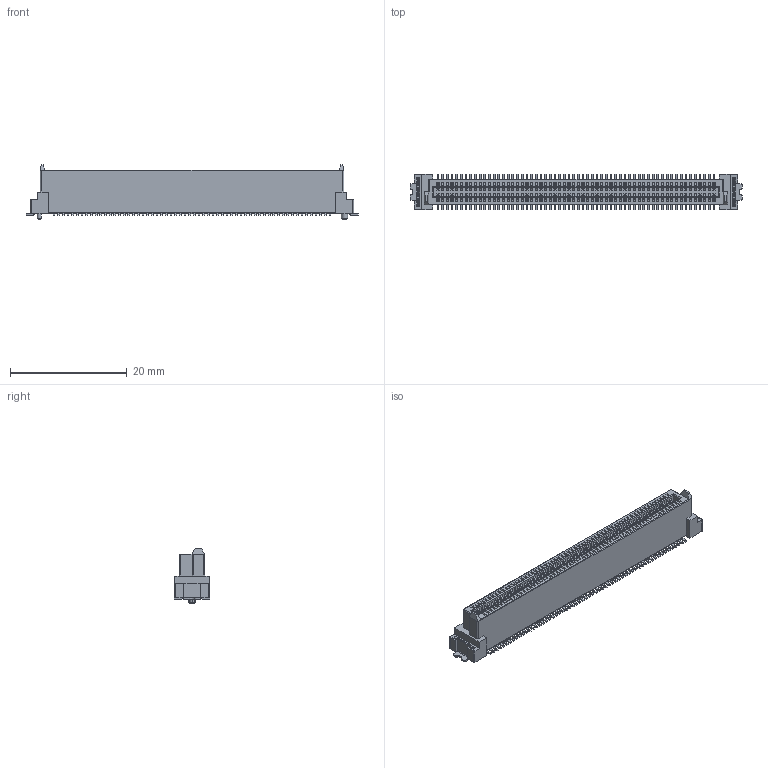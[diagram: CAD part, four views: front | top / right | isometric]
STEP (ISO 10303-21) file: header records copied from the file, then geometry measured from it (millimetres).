
FILE_DESCRIPTION(('CATIA V5 STEP Exchange'),'2;1');
FILE_NAME('F:\黄富鸿\板对板\PBB08D\母座\H7.4\HC-PBB08D-1-120-F-H7.4-XX-R-P-06 (BTB0.8 单槽 D型母座 立贴 带柱 编带)-HCTL.stp','2026-02-04T06:54:54+00:00',('none'),('none'),'CATIA Version 5 Release 20 GA (IN-10)','CATIA V5 STEP AP203','none');
FILE_SCHEMA(('CONFIG_CONTROL_DESIGN'));
Products named in the file (1): Part1
Bounding box: 56.8 x 6 x 9.4 mm (x, y, z)
Volume: 1052.4 mm3; surface area: 5574.5 mm2
Topology: 123 solids, 123 shells, 3891 faces, 11742 edges, 7740 vertices
Faces by surface type: plane 2635, cylinder 1250, cone 4, torus 2
Entity records: 127022 total; most frequent: ORIENTED_EDGE 23484, CARTESIAN_POINT 22998, DIRECTION 18552, EDGE_CURVE 11742, VECTOR 9208, LINE 9208, VERTEX_POINT 7740, AXIS2_PLACEMENT_3D 5920
